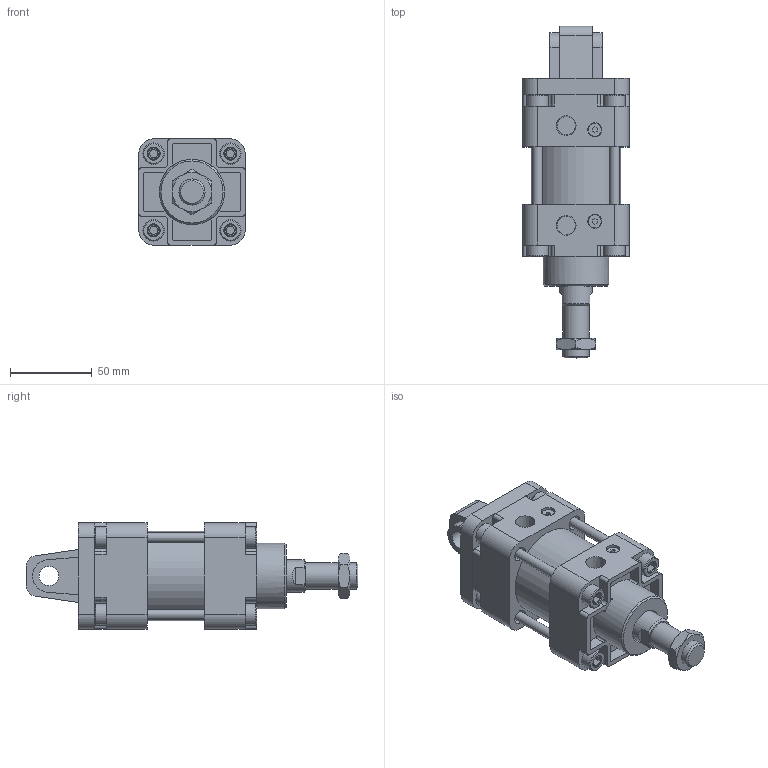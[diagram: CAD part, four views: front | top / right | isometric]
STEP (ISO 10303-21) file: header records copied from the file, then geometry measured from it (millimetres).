
FILE_DESCRIPTION(/* description */ ('Unknown'),/* implementation_level */ '2;1');
FILE_NAME(/* name */ 'WA50-0-CA',/* time_stamp */ '2026-07-17T16:51:58+08:00',/* author */ ('Unknown'),/* organization */ ('Unknown'),/* preprocessor_version */ 'ST-DEVELOPER v16.7',/* originating_system */ 'DEX',/* authorisation */ $);
FILE_SCHEMA (('CONFIG_CONTROL_DESIGN'));
Length unit declared in the file: millimetre
Products named in the file (8): WA50-0-CA; WA50_前; WA50_鋁; WA50_後; WA50_､ﾟｶbｬ｡; M16-1.5P-8_螺; WA50_T碪$; WA50_CA
Assembly tree (10 placements, depth 2):
  WA50-0-CA
    WA50_前
    WA50_鋁
    WA50_後
    WA50_､ﾟｶbｬ｡
    M16-1.5P-8_螺
    WA50_T碪$  x4
    WA50_CA
Bounding box: 65 x 203 x 65 mm (x, y, z)
Volume: 415944.9 mm3; surface area: 106115 mm2
Topology: 10 solids, 10 shells, 398 faces, 967 edges, 651 vertices
Faces by surface type: plane 226, cylinder 135, cone 37
Full cylindrical faces by diameter (mm): 5 x8, 6 x4, 7 x4, 8 x2, 8.5 x2, 8.8 x8, 9 x8, 11 x4, 12 x1, 13 x8, 14.5 x1, 16 x1, 20 x2, 40 x1, 49.5 x1, 50 x3, 55 x1
Entity records: 10417 total; most frequent: CARTESIAN_POINT 1548, DIRECTION 1518, ORIENTED_EDGE 1342, EDGE_CURVE 671, AXIS2_PLACEMENT_3D 571, VERTEX_POINT 473, EDGE_LOOP 406, FACE_BOUND 406
